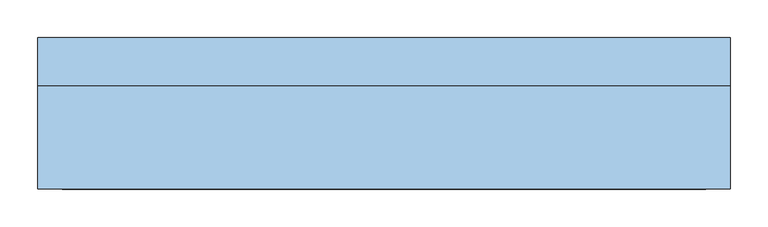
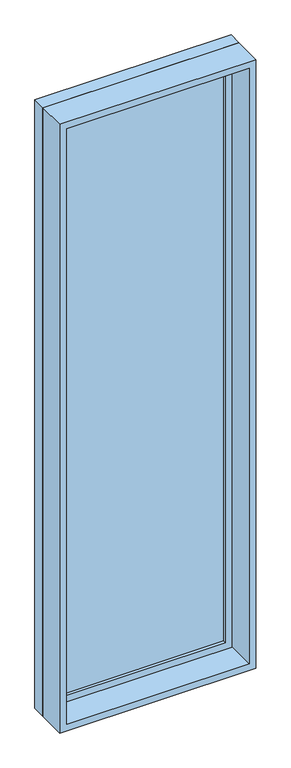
"""IFC4 building model written with IfcOpenShell, lengths in millimetres: window geometry, M_Неподвижный : 0915 x 1830 мм."""

from ifc_helpers import new_model, si_unit, frame, origin, place, context, project, spatial, polyline, outline, extrude, source, transform, mapped, element, save


def window_82d4f244(model_context):
    return source(origin(), model_context, "Body", "SweptSolid", [
        extrude(outline(polyline([(-394.5, 78.0), (394.5, 78.0), (394.5, 66.0), (-394.5, 66.0), (-394.5, 78.0)])), frame((0.0, 0.0, 368.0), z_axis=(0.0, 0.0, 1.0), x_axis=(1.0, 0.0, 0.0)), (0.0, 0.0, 1.0), 2874.0),
        extrude(outline(polyline([(3286.0, -438.5), (324.0, -438.5), (324.0, 438.5), (3286.0, 438.5), (3286.0, -438.5)]), holes=[polyline([(3242.0, -394.5), (3242.0, 394.5), (368.0, 394.5), (368.0, -394.5), (3242.0, -394.5)])]), frame((0.0, 50.0, 0.0), z_axis=(0.0, 1.0, 0.0), x_axis=(0.0, 0.0, 1.0)), (0.0, 0.0, 1.0), 44.0),
        extrude(outline(polyline([(3305.0, -457.5), (305.0, -457.5), (305.0, 457.5), (3305.0, 457.5), (3305.0, -457.5)]), holes=[polyline([(3286.0, -438.5), (3286.0, 438.5), (324.0, 438.5), (324.0, -438.5), (3286.0, -438.5)])]), frame((0.0, 50.0, 0.0), z_axis=(0.0, 1.0, 0.0), x_axis=(0.0, 0.0, 1.0)), (0.0, 0.0, 1.0), 63.0),
        extrude(outline(polyline([(3305.0, -457.5), (305.0, -457.5), (305.0, 457.5), (3305.0, 457.5), (3305.0, -457.5)]), holes=[polyline([(3273.0, -425.5), (3273.0, 425.5), (337.0, 425.5), (337.0, -425.5), (3273.0, -425.5)])]), frame((0.0, -87.0, 0.0), z_axis=(0.0, 1.0, 0.0), x_axis=(0.0, 0.0, 1.0)), (0.0, 0.0, 1.0), 137.0),
    ])


if __name__ == "__main__":
    model = new_model("IFC4")
    model_context = context("Model", 3, world=origin())
    ifc_project = project(units=[si_unit("LENGTHUNIT", "METRE", prefix="MILLI")], contexts=[model_context])
    site = spatial("IfcSite", under=ifc_project)
    building = spatial("IfcBuilding", under=site)
    placement = place(None, origin())
    window_shape = window_82d4f244(model_context)
    element("IfcWindow", 1, ObjectType="M_Неподвижный : 0915 x 1830 мм", at=placement, inside=building, context=model_context, shape_type="MappedRepresentation", body=[
        mapped(window_shape, transform((0.0, 0.0, 0.0), x_axis=(1.0, 0.0, 0.0), y_axis=(0.0, 1.0, 0.0), z_axis=(0.0, 0.0, 1.0))),
    ])
    save(model, "model.ifc")
